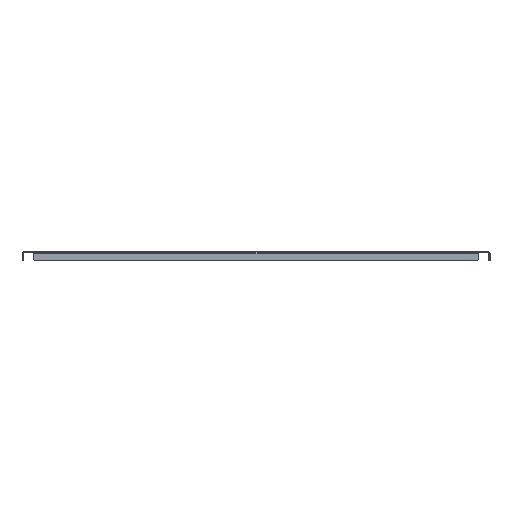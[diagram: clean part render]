
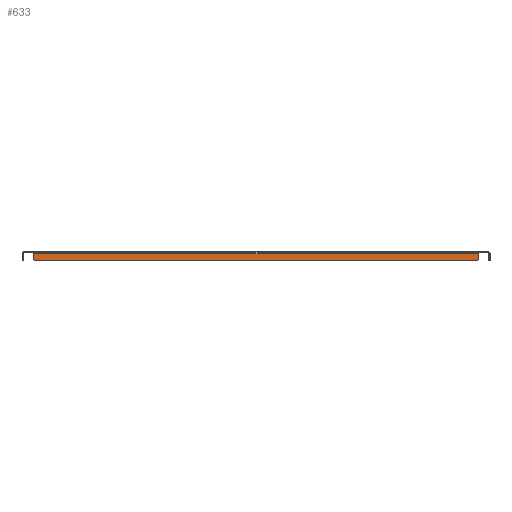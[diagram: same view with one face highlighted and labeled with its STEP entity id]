
A CAD part, left-side view. The second image highlights one B-rep face of the part: STEP entity #633.
In plain terms, the highlighted planar face has unit normal (-1, 0, 0).
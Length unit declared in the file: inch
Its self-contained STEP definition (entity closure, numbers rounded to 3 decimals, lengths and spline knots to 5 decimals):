
#350 = EDGE_CURVE ( 'NONE', #4773, #4771, #3208, .T. ) ;
#352 = EDGE_CURVE ( 'NONE', #4857, #4760, #3404, .T. ) ;
#357 = EDGE_CURVE ( 'NONE', #4507, #4771, #3216, .T. ) ;
#375 = EDGE_CURVE ( 'NONE', #4773, #4760, #3193, .T. ) ;
#376 = AXIS2_PLACEMENT_3D ( 'NONE', #1205, #1197, #1196 ) ;
#381 = EDGE_CURVE ( 'NONE', #4795, #4507, #3047, .T. ) ;
#385 = EDGE_CURVE ( 'NONE', #4857, #4795, #2753, .T. ) ;
#633 = ADVANCED_FACE ( 'NONE', ( #2451 ), #1204, .F. ) ;
#1196 = DIRECTION ( 'NONE',  ( 0., 0., -1. ) ) ;
#1197 = DIRECTION ( 'NONE',  ( 1., 0., 0. ) ) ;
#1204 = PLANE ( 'NONE',  #376 ) ;
#1205 = CARTESIAN_POINT ( 'NONE',  ( -29.1, -19.084, 0. ) ) ;
#1654 = ORIENTED_EDGE ( 'NONE', *, *, #385, .F. ) ;
#1655 = ORIENTED_EDGE ( 'NONE', *, *, #352, .T. ) ;
#1656 = ORIENTED_EDGE ( 'NONE', *, *, #375, .F. ) ;
#1657 = ORIENTED_EDGE ( 'NONE', *, *, #350, .T. ) ;
#1658 = ORIENTED_EDGE ( 'NONE', *, *, #357, .F. ) ;
#1659 = ORIENTED_EDGE ( 'NONE', *, *, #381, .F. ) ;
#2451 = FACE_OUTER_BOUND ( 'NONE', #3185, .T. ) ;
#2753 = LINE ( 'NONE', #4655, #2755 ) ;
#2755 = VECTOR ( 'NONE', #4711, 39.37008 ) ;
#2758 = VECTOR ( 'NONE', #4577, 39.37008 ) ;
#3047 = LINE ( 'NONE', #4642, #2758 ) ;
#3185 = EDGE_LOOP ( 'NONE', ( #1654, #1655, #1656, #1657, #1658, #1659 ) ) ;
#3193 = LINE ( 'NONE', #3985, #3425 ) ;
#3205 = VECTOR ( 'NONE', #4301, 39.37008 ) ;
#3208 = LINE ( 'NONE', #4123, #3212 ) ;
#3210 = VECTOR ( 'NONE', #4434, 39.37008 ) ;
#3212 = VECTOR ( 'NONE', #4517, 39.37008 ) ;
#3216 = LINE ( 'NONE', #4251, #3205 ) ;
#3404 = LINE ( 'NONE', #4593, #3210 ) ;
#3425 = VECTOR ( 'NONE', #3958, 39.37008 ) ;
#3474 = CARTESIAN_POINT ( 'NONE',  ( -29.1, -19.084, -0.593 ) ) ;
#3476 = CARTESIAN_POINT ( 'NONE',  ( -29.1, -19.024, -0.653 ) ) ;
#3532 = CARTESIAN_POINT ( 'NONE',  ( -29.1, -19.084, -0.076 ) ) ;
#3548 = CARTESIAN_POINT ( 'NONE',  ( -29.1, 19.084, -0.076 ) ) ;
#3620 = CARTESIAN_POINT ( 'NONE',  ( -29.1, 19.084, -0.593 ) ) ;
#3751 = CARTESIAN_POINT ( 'NONE',  ( -29.1, 19.024, -0.653 ) ) ;
#3958 = DIRECTION ( 'NONE',  ( 0., 1., 0. ) ) ;
#3985 = CARTESIAN_POINT ( 'NONE',  ( -29.1, 19.084, -0.653 ) ) ;
#4123 = CARTESIAN_POINT ( 'NONE',  ( -29.1, -19.084, -0.593 ) ) ;
#4251 = CARTESIAN_POINT ( 'NONE',  ( -29.1, -19.084, -0.653 ) ) ;
#4301 = DIRECTION ( 'NONE',  ( 0., 0., -1. ) ) ;
#4434 = DIRECTION ( 'NONE',  ( 0., -0.707, -0.707 ) ) ;
#4507 = VERTEX_POINT ( 'NONE', #3532 ) ;
#4517 = DIRECTION ( 'NONE',  ( 0., -0.707, 0.707 ) ) ;
#4577 = DIRECTION ( 'NONE',  ( 0., -1., 0. ) ) ;
#4593 = CARTESIAN_POINT ( 'NONE',  ( -29.1, 19.024, -0.653 ) ) ;
#4642 = CARTESIAN_POINT ( 'NONE',  ( -29.1, -19.084, -0.076 ) ) ;
#4655 = CARTESIAN_POINT ( 'NONE',  ( -29.1, 19.084, 0. ) ) ;
#4711 = DIRECTION ( 'NONE',  ( 0., 0., 1. ) ) ;
#4760 = VERTEX_POINT ( 'NONE', #3751 ) ;
#4771 = VERTEX_POINT ( 'NONE', #3474 ) ;
#4773 = VERTEX_POINT ( 'NONE', #3476 ) ;
#4795 = VERTEX_POINT ( 'NONE', #3548 ) ;
#4857 = VERTEX_POINT ( 'NONE', #3620 ) ;
